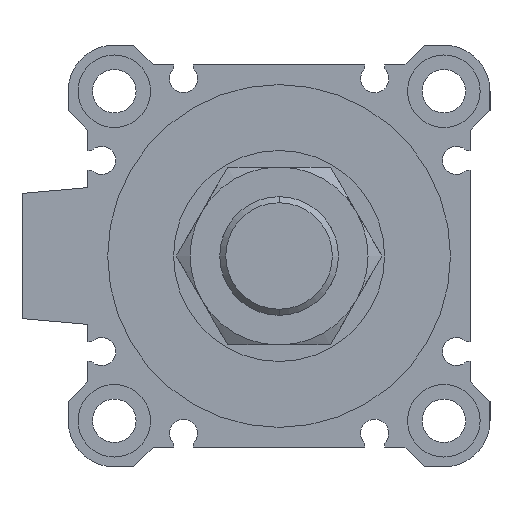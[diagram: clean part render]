
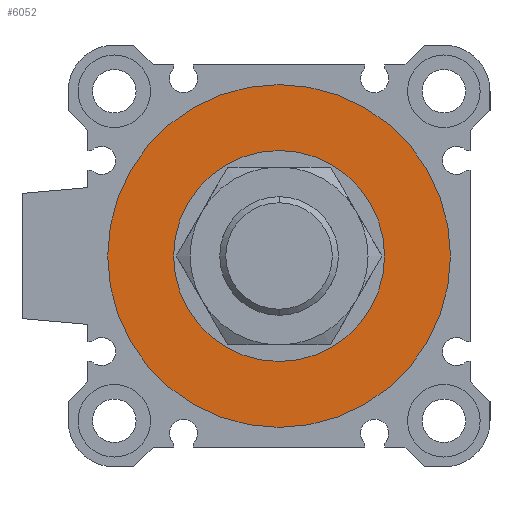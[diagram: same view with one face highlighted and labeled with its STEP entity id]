
A CAD part, left-side view. The second image highlights one B-rep face of the part: STEP entity #6052.
In plain terms, the highlighted planar face has unit normal (-1, 0, 0).
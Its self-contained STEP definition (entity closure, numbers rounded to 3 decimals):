
#528 = CARTESIAN_POINT ( 'NONE',  ( 3., 0., 0. ) ) ;
#616 = ORIENTED_EDGE ( 'NONE', *, *, #7067, .T. ) ;
#762 = CARTESIAN_POINT ( 'NONE',  ( 3., 0., 0. ) ) ;
#786 = VERTEX_POINT ( 'NONE', #5931 ) ;
#882 = AXIS2_PLACEMENT_3D ( 'NONE', #6713, #2792, #4452 ) ;
#925 = CARTESIAN_POINT ( 'NONE',  ( 3., 0., -16. ) ) ;
#941 = DIRECTION ( 'NONE',  ( 0., 0., -1. ) ) ;
#1486 = DIRECTION ( 'NONE',  ( 1., 0., 0. ) ) ;
#2105 = EDGE_CURVE ( 'NONE', #6325, #3904, #4736, .T. ) ;
#2440 = PLANE ( 'NONE',  #5711 ) ;
#2506 = EDGE_CURVE ( 'NONE', #786, #6128, #5645, .T. ) ;
#2721 = EDGE_CURVE ( 'NONE', #6128, #786, #4875, .T. ) ;
#2792 = DIRECTION ( 'NONE',  ( 1., 0., 0. ) ) ;
#2813 = DIRECTION ( 'NONE',  ( 1., 0., 0. ) ) ;
#2958 = CARTESIAN_POINT ( 'NONE',  ( 3., 0., 0. ) ) ;
#3380 = DIRECTION ( 'NONE',  ( 0., 0., -1. ) ) ;
#3495 = CARTESIAN_POINT ( 'NONE',  ( 3., 0., 16. ) ) ;
#3904 = VERTEX_POINT ( 'NONE', #925 ) ;
#4014 = CIRCLE ( 'NONE', #882, 16. ) ;
#4049 = FACE_BOUND ( 'NONE', #6975, .T. ) ;
#4218 = CARTESIAN_POINT ( 'NONE',  ( 3., 0., 26. ) ) ;
#4452 = DIRECTION ( 'NONE',  ( 0., 0., -1. ) ) ;
#4539 = DIRECTION ( 'NONE',  ( 0., 0., -1. ) ) ;
#4642 = DIRECTION ( 'NONE',  ( 1., 0., 0. ) ) ;
#4736 = CIRCLE ( 'NONE', #5664, 16. ) ;
#4755 = FACE_OUTER_BOUND ( 'NONE', #6988, .T. ) ;
#4793 = AXIS2_PLACEMENT_3D ( 'NONE', #762, #5102, #3380 ) ;
#4853 = ORIENTED_EDGE ( 'NONE', *, *, #2105, .T. ) ;
#4875 = CIRCLE ( 'NONE', #5458, 26. ) ;
#5102 = DIRECTION ( 'NONE',  ( 1., 0., 0. ) ) ;
#5458 = AXIS2_PLACEMENT_3D ( 'NONE', #7003, #1486, #941 ) ;
#5645 = CIRCLE ( 'NONE', #4793, 26. ) ;
#5664 = AXIS2_PLACEMENT_3D ( 'NONE', #528, #2813, #4539 ) ;
#5711 = AXIS2_PLACEMENT_3D ( 'NONE', #2958, #4642, #6868 ) ;
#5931 = CARTESIAN_POINT ( 'NONE',  ( 3., 0., -26. ) ) ;
#6052 = ADVANCED_FACE ( 'NONE', ( #4755, #4049 ), #2440, .F. ) ;
#6128 = VERTEX_POINT ( 'NONE', #4218 ) ;
#6169 = ORIENTED_EDGE ( 'NONE', *, *, #2721, .F. ) ;
#6325 = VERTEX_POINT ( 'NONE', #3495 ) ;
#6713 = CARTESIAN_POINT ( 'NONE',  ( 3., 0., 0. ) ) ;
#6868 = DIRECTION ( 'NONE',  ( 0., 1., 0. ) ) ;
#6975 = EDGE_LOOP ( 'NONE', ( #4853, #616 ) ) ;
#6988 = EDGE_LOOP ( 'NONE', ( #6169, #7102 ) ) ;
#7003 = CARTESIAN_POINT ( 'NONE',  ( 3., 0., 0. ) ) ;
#7067 = EDGE_CURVE ( 'NONE', #3904, #6325, #4014, .T. ) ;
#7102 = ORIENTED_EDGE ( 'NONE', *, *, #2506, .F. ) ;
